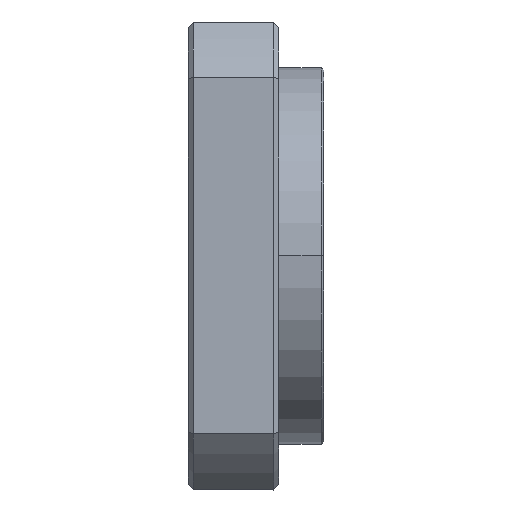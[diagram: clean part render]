
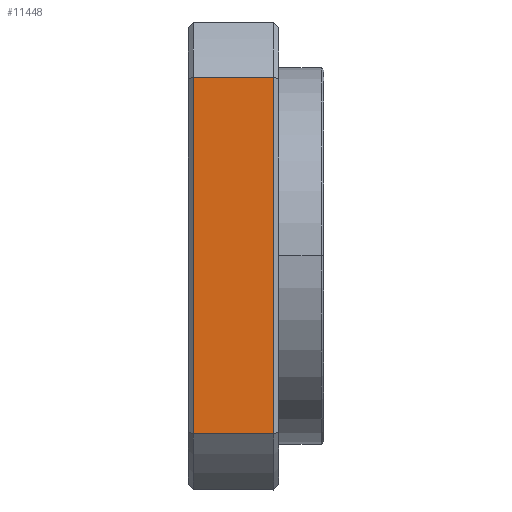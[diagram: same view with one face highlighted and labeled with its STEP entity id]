
A CAD part, top view. The second image highlights one B-rep face of the part: STEP entity #11448.
In plain terms, the highlighted planar face has unit normal (0, 0, 1).
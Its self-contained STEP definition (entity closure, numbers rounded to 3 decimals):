
#253 = CARTESIAN_POINT ( 'NONE',  ( -38.821, -37.928, 46.5 ) ) ;
#1020 = AXIS2_PLACEMENT_3D ( 'NONE', #10305, #8880, #14277 ) ;
#1820 = EDGE_LOOP ( 'NONE', ( #13983, #9452, #3414, #11982 ) ) ;
#2227 = CARTESIAN_POINT ( 'NONE',  ( -38.821, 33.065, 46.5 ) ) ;
#2911 = CARTESIAN_POINT ( 'NONE',  ( -54.821, 33.065, 46.5 ) ) ;
#3414 = ORIENTED_EDGE ( 'NONE', *, *, #10288, .T. ) ;
#3522 = EDGE_CURVE ( 'NONE', #16670, #15292, #15861, .T. ) ;
#4430 = LINE ( 'NONE', #8285, #15971 ) ;
#4531 = VECTOR ( 'NONE', #5230, 1000. ) ;
#4755 = FACE_OUTER_BOUND ( 'NONE', #1820, .T. ) ;
#4985 = EDGE_CURVE ( 'NONE', #16670, #13567, #4430, .T. ) ;
#5230 = DIRECTION ( 'NONE',  ( 0., 1., 0. ) ) ;
#8285 = CARTESIAN_POINT ( 'NONE',  ( -38.821, -37.928, 46.5 ) ) ;
#8880 = DIRECTION ( 'NONE',  ( 0., 0., 1. ) ) ;
#8934 = CARTESIAN_POINT ( 'NONE',  ( -38.821, -37.928, 46.5 ) ) ;
#9452 = ORIENTED_EDGE ( 'NONE', *, *, #4985, .T. ) ;
#10288 = EDGE_CURVE ( 'NONE', #13567, #16611, #12837, .T. ) ;
#10305 = CARTESIAN_POINT ( 'NONE',  ( -54.821, -37.928, 46.5 ) ) ;
#11386 = VECTOR ( 'NONE', #14495, 1000. ) ;
#11448 = ADVANCED_FACE ( 'NONE', ( #4755 ), #12800, .T. ) ;
#11466 = CARTESIAN_POINT ( 'NONE',  ( -54.821, 33.065, 46.5 ) ) ;
#11982 = ORIENTED_EDGE ( 'NONE', *, *, #14119, .F. ) ;
#11985 = CARTESIAN_POINT ( 'NONE',  ( -54.821, -38.354, 46.5 ) ) ;
#12483 = DIRECTION ( 'NONE',  ( 0., 1., 0. ) ) ;
#12800 = PLANE ( 'NONE',  #1020 ) ;
#12837 = LINE ( 'NONE', #11466, #15029 ) ;
#12933 = DIRECTION ( 'NONE',  ( -1., 0., 0. ) ) ;
#13368 = LINE ( 'NONE', #11985, #4531 ) ;
#13567 = VERTEX_POINT ( 'NONE', #2227 ) ;
#13983 = ORIENTED_EDGE ( 'NONE', *, *, #3522, .F. ) ;
#14119 = EDGE_CURVE ( 'NONE', #15292, #16611, #13368, .T. ) ;
#14277 = DIRECTION ( 'NONE',  ( 1., 0., 0. ) ) ;
#14495 = DIRECTION ( 'NONE',  ( -1., 0., 0. ) ) ;
#14698 = CARTESIAN_POINT ( 'NONE',  ( -54.821, -37.928, 46.5 ) ) ;
#15029 = VECTOR ( 'NONE', #12933, 1000. ) ;
#15292 = VERTEX_POINT ( 'NONE', #14698 ) ;
#15861 = LINE ( 'NONE', #8934, #11386 ) ;
#15971 = VECTOR ( 'NONE', #12483, 1000. ) ;
#16611 = VERTEX_POINT ( 'NONE', #2911 ) ;
#16670 = VERTEX_POINT ( 'NONE', #253 ) ;
